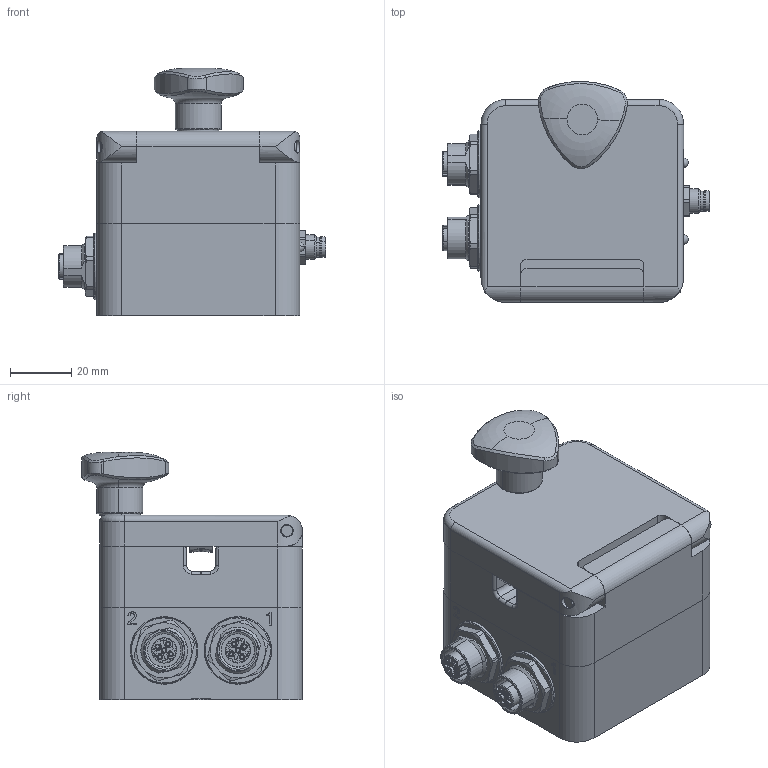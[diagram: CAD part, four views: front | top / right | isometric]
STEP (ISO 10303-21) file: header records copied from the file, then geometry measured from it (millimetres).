
FILE_DESCRIPTION (( 'STEP AP214' ), '1' );
FILE_NAME ('BCU-0375.STEP', '2025-07-29T14:29:17', ( '' ), ( '' ), 'SwSTEP 2.0', 'SolidWorks 2023', '' );
FILE_SCHEMA (( 'AUTOMOTIVE_DESIGN' ));
Length unit declared in the file: inch
Products named in the file (1): BCU-0375
Bounding box: 87.1 x 71.88 x 80.5 mm (x, y, z)
Volume: 168947.5 mm3; surface area: 60670.8 mm2
Topology: 17 solids, 30 shells, 1239 faces, 3054 edges, 1929 vertices
Faces by surface type: plane 431, cylinder 409, bspline 173, cone 151, torus 66, sphere 9
Entity records: 46093 total; most frequent: CARTESIAN_POINT 17553, ORIENTED_EDGE 6012, DIRECTION 5597, EDGE_CURVE 3006, AXIS2_PLACEMENT_3D 2118, VERTEX_POINT 1917, EDGE_LOOP 1381, LINE 1361
